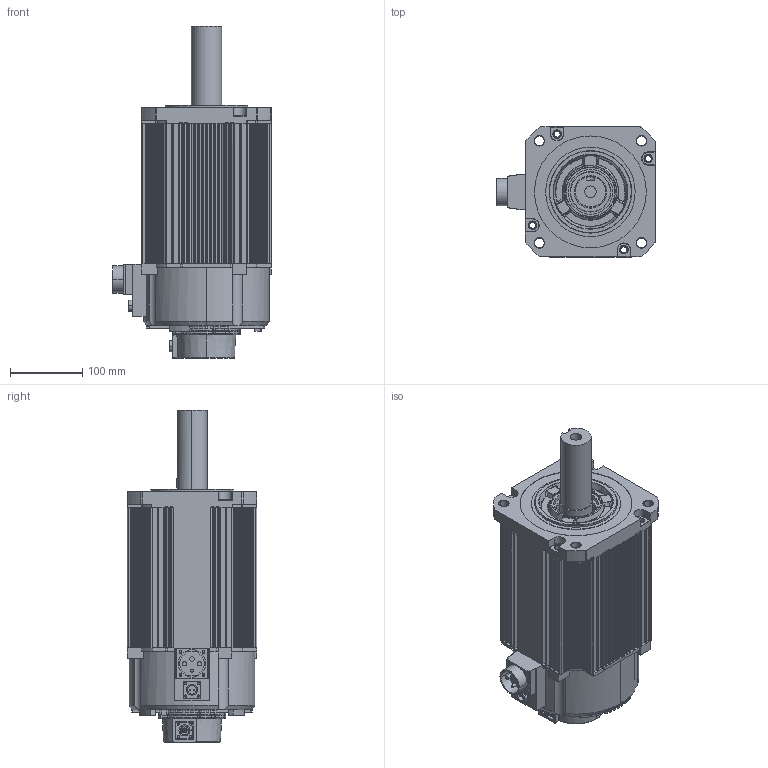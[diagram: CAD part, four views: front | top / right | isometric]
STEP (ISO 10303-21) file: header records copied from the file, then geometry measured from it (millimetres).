
FILE_DESCRIPTION(('CATIA V5 STEP Exchange'),'2;1');
FILE_NAME('F:\公司\180- 5对极\180A-48015\3D\180AST-48015HBZ\180AST-48015HBZ-ZZP.stp','2021-08-17T06:47:43+00:00',('none'),('none'),'CATIA Version 5 Release 20 GA (IN-10)','CATIA V5 STEP AP203','none');
FILE_SCHEMA(('CONFIG_CONTROL_DESIGN'));
Products named in the file (1): 180AST-48015HB-ZZP
Bounding box: 220 x 180 x 460 mm (x, y, z)
Volume: 3264645.1 mm3; surface area: 891211.7 mm2
Topology: 3 solids, 3 shells, 2658 faces, 6801 edges, 4243 vertices
Faces by surface type: cylinder 1157, plane 954, torus 279, bspline 162, sphere 74, cone 32
Entity records: 82376 total; most frequent: CARTESIAN_POINT 23398, ORIENTED_EDGE 13504, DIRECTION 9608, EDGE_CURVE 6752, AXIS2_PLACEMENT_3D 4775, VERTEX_POINT 4243, VECTOR 3120, LINE 3120
